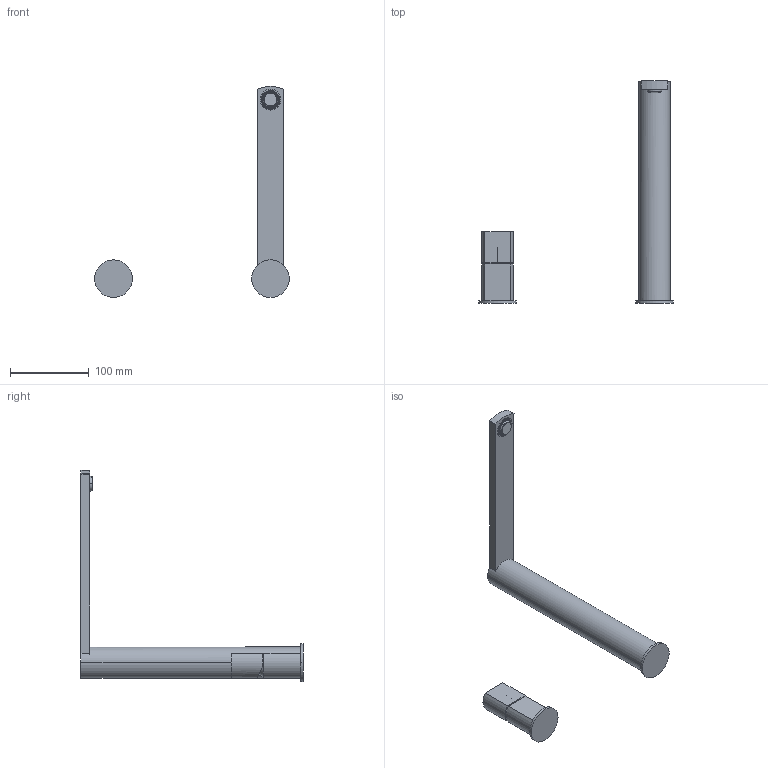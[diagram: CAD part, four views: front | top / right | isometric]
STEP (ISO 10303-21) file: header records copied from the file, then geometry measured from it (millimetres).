
FILE_DESCRIPTION((''),'2;1');
FILE_NAME('89058B21_SW0001','2020-06-18T16:47:53',('carloff'),(''),'CREO PARAMETRIC BY PTC INC, 2018100','CREO PARAMETRIC BY PTC INC, 2018100','');
FILE_SCHEMA(('CONFIG_CONTROL_DESIGN'));
Length unit declared in the file: millimetre
Products named in the file (1): 89058B21_SW0001
Bounding box: 247.91 x 283 x 268.85 mm (x, y, z)
Volume: 180529.5 mm3; surface area: 134785.5 mm2
Topology: 2 solids, 2 shells, 3058 faces, 7996 edges, 5323 vertices
Faces by surface type: plane 2496, cone 421, cylinder 119, bspline 10, sphere 8, torus 4
Entity records: 108727 total; most frequent: CARTESIAN_POINT 42770, ORIENTED_EDGE 15988, DIRECTION 9482, EDGE_CURVE 7994, VERTEX_POINT 5323, B_SPLINE_CURVE_WITH_KNOTS 4922, EDGE_LOOP 3447, AXIS2_PLACEMENT_3D 3362
